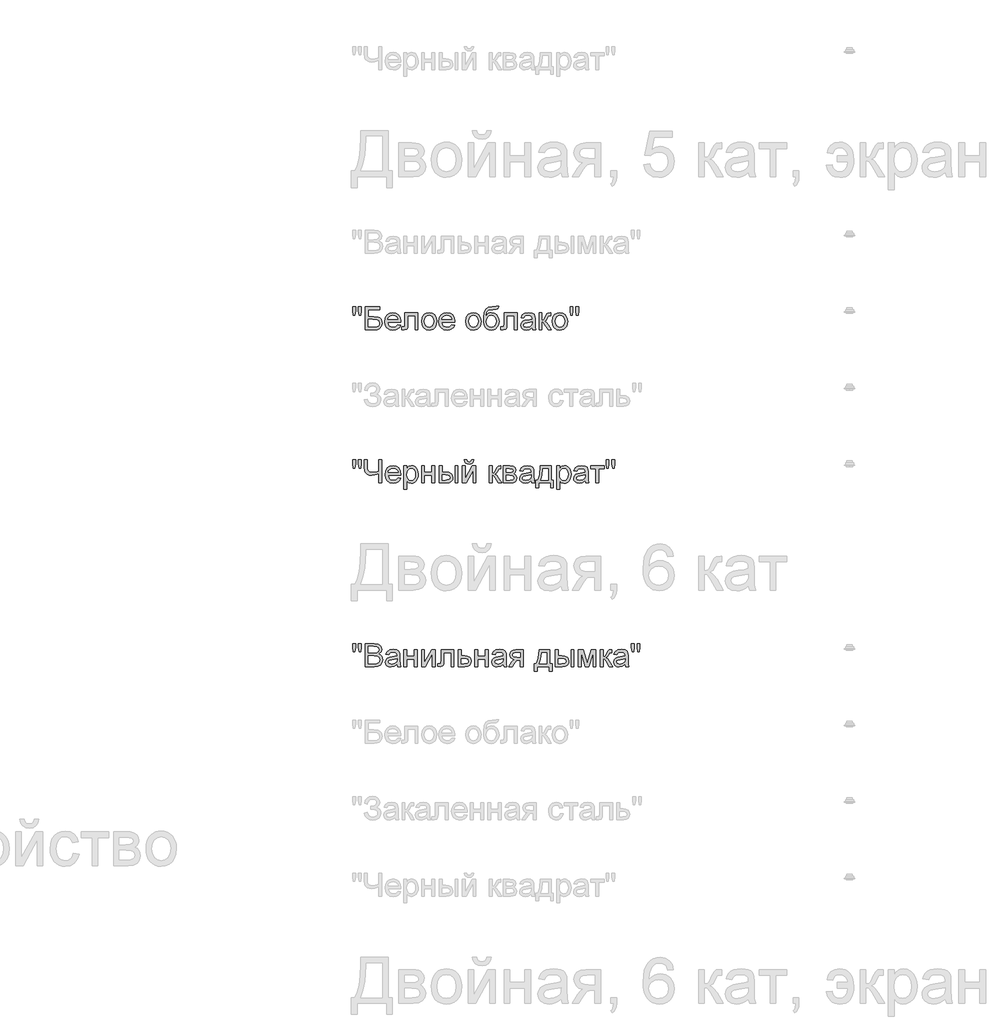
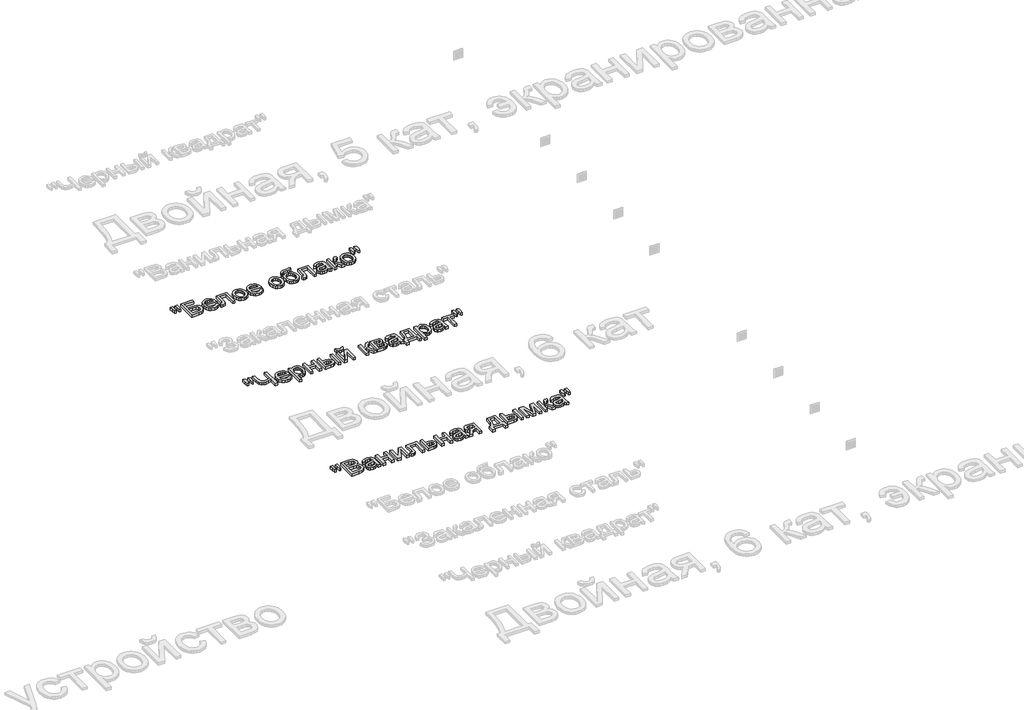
# One storey, part 156 of 168: 3 proxies.
"""IFC4 building model written with IfcOpenShell, lengths in millimetres."""

from ifc_helpers import new_model, si_unit, origin, origin_with_axes, place, context, project, spatial, polyline, outline, extrude, element, save

model = new_model("IFC4")

# Units and contexts
model_context = context("Model", 3, world=origin())
ifc_project = project(units=[si_unit("LENGTHUNIT", "METRE", prefix="MILLI")], contexts=[model_context])

# Site, building, storey
site = spatial("IfcSite", under=ifc_project)
building = spatial("IfcBuilding", under=site)
storey = spatial("IfcBuildingStorey", under=building, Name="Этаж 01", Elevation=0.0)

# Proxies
placement = place(None, origin())
element("IfcBuildingElementProxy", 1, Name="150", ObjectType="150", at=placement, inside=storey, context=model_context, shape_type="SweptSolid", body=[
    extrude(outline(polyline([(77280.1485789, -12351.873446), (77275.550054, -12322.7739802), (77275.550054, -12297.7212163), (77294.3856121, -12297.7212163), (77294.3856121, -12322.7739802), (77290.2653338, -12351.873446), (77280.1485789, -12351.873446)])), origin_with_axes(), (0.0, 0.0, 1.0), 20.0),
    extrude(outline(polyline([(77317.7093306, -12351.873446), (77313.2211703, -12322.7739802), (77313.2211703, -12297.7212163), (77332.0567284, -12297.7212163), (77332.0567284, -12322.7739802), (77327.6421445, -12351.873446), (77317.7093306, -12351.873446)])), origin_with_axes(), (0.0, 0.0, 1.0), 20.0),
    extrude(outline(polyline([(77357.9556209, -12297.7212163), (77452.1334117, -12297.7212163), (77452.1334117, -12316.5567745), (77376.791179, -12316.5567745), (77376.791179, -12361.2912251), (77412.0710624, -12361.2912251), (77443.157091, -12365.1171979), (77453.5589544, -12370.6446248), (77461.6615553, -12379.5749603), (77466.8762826, -12391.0712726), (77468.614525, -12404.2966303), (77463.6665122, -12425.7625448), (77448.8960501, -12442.0781113), (77435.6247071, -12446.823789), (77415.4555767, -12448.4056816), (77357.9556209, -12448.4056816), (77357.9556209, -12297.7212163)]), holes=[polyline([(77376.791179, -12429.5701234), (77417.1478339, -12429.5701234), (77431.4124583, -12428.015822), (77441.6119866, -12423.3529177), (77447.7372218, -12415.5814105), (77449.7789669, -12404.7013005), (77445.1068655, -12389.9492325), (77432.102237, -12382.0765578), (77403.7201411, -12380.1267833), (77376.791179, -12380.1267833), (77376.791179, -12429.5701234)])]), origin_with_axes(), (0.0, 0.0, 1.0), 20.0),
    extrude(outline(polyline([(77569.6349209, -12415.4434548), (77588.1025971, -12417.7978996), (77581.4485315, -12431.713036), (77570.8305374, -12442.1148995), (77556.4877381, -12448.5988196), (77538.6592569, -12450.7601263), (77516.5587461, -12447.0307226), (77499.5534008, -12435.8425114), (77488.710079, -12417.9220597), (77485.0956384, -12393.9959345), (77488.7468672, -12369.2650674), (77499.7005536, -12350.7698), (77516.4759726, -12339.2366995), (77537.5923991, -12335.3923327), (77558.0512366, -12339.2275025), (77574.3989927, -12350.7330118), (77585.1181544, -12369.191491), (77588.6912083, -12393.8855699), (77588.5808437, -12398.9623414), (77503.9311966, -12398.9623414), (77507.1915508, -12413.0614189), (77514.7653213, -12423.4264941), (77525.6960151, -12429.8000497), (77539.0271389, -12431.9245682), (77557.4948151, -12427.9882308), (77569.6349209, -12415.4434548)]), holes=[polyline([(77503.9311966, -12380.1267833), (77569.8556501, -12380.1267833), (77567.3080673, -12370.1755753), (77562.3140692, -12363.0570587), (77551.3327917, -12356.4351828), (77537.5188227, -12354.2278908), (77524.8222954, -12355.9891259), (77514.3238629, -12361.272831), (77507.0260039, -12369.5087892), (77503.9311966, -12380.1267833)])]), origin_with_axes(), (0.0, 0.0, 1.0), 20.0),
    extrude(outline(polyline([(77616.9445455, -12337.7467774), (77701.7045572, -12337.7467774), (77701.7045572, -12448.295317), (77682.868999, -12448.295317), (77682.868999, -12356.5823356), (77635.7801036, -12356.5823356), (77635.7801036, -12409.3734019), (77634.5109108, -12433.72719), (77627.539547, -12444.0094917), (77611.0584336, -12448.4056816), (77595.7545426, -12447.4491884), (77595.7545426, -12429.5701234), (77604.1790403, -12429.5701234), (77612.6955084, -12428.4112951), (77616.0984169, -12424.7324752), (77616.9445455, -12408.3065441), (77616.9445455, -12337.7467774)])), origin_with_axes(), (0.0, 0.0, 1.0), 20.0),
    extrude(outline(polyline([(77725.2490049, -12393.0762295), (77729.323298, -12366.3955878), (77741.5461773, -12347.6428031), (77756.6477332, -12338.4549503), (77774.7291332, -12335.3923327), (77794.516586, -12339.1217364), (77810.3217163, -12350.3099476), (77820.6821929, -12368.0740494), (77824.1356852, -12391.5311251), (77822.6089749, -12410.5598213), (77818.0288441, -12425.0451749), (77810.5286499, -12435.8930952), (77800.2417496, -12444.0094917), (77788.0234688, -12449.0724677), (77774.7291332, -12450.7601263), (77754.7025571, -12447.0445182), (77738.915821, -12435.8976937), (77728.6657089, -12417.7611114), (77725.2490049, -12393.0762295)]), holes=[polyline([(77744.084563, -12393.0394413), (77746.2642638, -12410.0861732), (77752.8033663, -12422.2308776), (77762.6442097, -12429.5011455), (77774.7291332, -12431.9245682), (77786.7588745, -12429.48735), (77796.5813237, -12422.1756953), (77803.1204262, -12409.8700426), (77805.300127, -12392.4508301), (77803.1066306, -12375.9007388), (77796.5261414, -12363.9215814), (77786.6898966, -12356.6513134), (77774.7291332, -12354.2278908), (77762.6442097, -12356.6421164), (77752.8033663, -12363.8847932), (77746.2642638, -12376.0019064), (77744.084563, -12393.0394413)])]), origin_with_axes(), (0.0, 0.0, 1.0), 20.0),
    extrude(outline(polyline([(77922.8016363, -12415.4434548), (77941.2693124, -12417.7978996), (77934.6152469, -12431.713036), (77923.9972528, -12442.1148995), (77909.6544535, -12448.5988196), (77891.8259723, -12450.7601263), (77869.7254614, -12447.0307226), (77852.7201162, -12435.8425114), (77841.8767944, -12417.9220597), (77838.2623538, -12393.9959345), (77841.9135826, -12369.2650674), (77852.867269, -12350.7698), (77869.642688, -12339.2366995), (77890.7591145, -12335.3923327), (77911.217952, -12339.2275025), (77927.5657081, -12350.7330118), (77938.2848698, -12369.191491), (77941.8579236, -12393.8855699), (77941.747559, -12398.9623414), (77857.0979119, -12398.9623414), (77860.3582661, -12413.0614189), (77867.9320367, -12423.4264941), (77878.8627305, -12429.8000497), (77892.1938543, -12431.9245682), (77910.6615304, -12427.9882308), (77922.8016363, -12415.4434548)]), holes=[polyline([(77857.0979119, -12380.1267833), (77923.0223655, -12380.1267833), (77920.4747827, -12370.1755753), (77915.4807846, -12363.0570587), (77904.499507, -12356.4351828), (77890.6855381, -12354.2278908), (77877.9890107, -12355.9891259), (77867.4905783, -12361.272831), (77860.1927192, -12369.5087892), (77857.0979119, -12380.1267833)])]), origin_with_axes(), (0.0, 0.0, 1.0), 20.0),
    extrude(outline(polyline([(78014.8457115, -12393.0762295), (78018.9200046, -12366.3955878), (78031.1428839, -12347.6428031), (78046.2444398, -12338.4549503), (78064.3258398, -12335.3923327), (78084.1132926, -12339.1217364), (78099.9184229, -12350.3099476), (78110.2788995, -12368.0740494), (78113.7323918, -12391.5311251), (78112.2056815, -12410.5598213), (78107.6255507, -12425.0451749), (78100.1253565, -12435.8930952), (78089.8384562, -12444.0094917), (78077.6201754, -12449.0724677), (78064.3258398, -12450.7601263), (78044.2992637, -12447.0445182), (78028.5125276, -12435.8976937), (78018.2624155, -12417.7611114), (78014.8457115, -12393.0762295)]), holes=[polyline([(78033.6812696, -12393.0394413), (78035.8609704, -12410.0861732), (78042.4000729, -12422.2308776), (78052.2409163, -12429.5011455), (78064.3258398, -12431.9245682), (78076.3555811, -12429.48735), (78086.1780303, -12422.1756953), (78092.7171328, -12409.8700426), (78094.8968336, -12392.4508301), (78092.7033372, -12375.9007388), (78086.122848, -12363.9215814), (78076.2866032, -12356.6513134), (78064.3258398, -12354.2278908), (78052.2409163, -12356.6421164), (78042.4000729, -12363.8847932), (78035.8609704, -12376.0019064), (78033.6812696, -12393.0394413)])]), origin_with_axes(), (0.0, 0.0, 1.0), 20.0),
    extrude(outline(polyline([(78212.6190721, -12295.3667716), (78229.1001855, -12295.3667716), (78224.2441431, -12310.0636573), (78214.6424231, -12315.3795521), (78191.576222, -12316.5567745), (78160.5085875, -12320.897782), (78153.3808738, -12326.5447707), (78148.5892108, -12334.8037215), (78144.560903, -12359.4150269), (78160.8764695, -12341.3888092), (78170.7954878, -12336.8914518), (78181.9009255, -12335.3923327), (78201.4998388, -12339.2045098), (78217.401538, -12350.6410414), (78227.9413572, -12368.5798871), (78231.4546302, -12391.8990071), (78229.7117893, -12409.8792396), (78224.4832664, -12424.3094109), (78207.9469707, -12443.8623389), (78196.6529935, -12449.0356795), (78181.9009255, -12450.7601263), (78164.9001788, -12448.5390388), (78152.1576662, -12441.8757762), (78142.7812738, -12431.7498242), (78135.8788879, -12419.1406689), (78131.6298508, -12400.1533594), (78130.2135052, -12370.8929452), (78133.786559, -12334.7531377), (78144.5057207, -12312.7124076), (78162.6377045, -12301.4690142), (78188.449225, -12297.7212163), (78209.4184987, -12297.2981521), (78212.6190721, -12295.3667716)]), holes=[polyline([(78212.6190721, -12391.3103959), (78210.577327, -12376.48935), (78204.4520918, -12364.6205572), (78194.6112484, -12356.8260574), (78181.4226789, -12354.2278908), (78167.6730893, -12356.9732102), (78157.473561, -12365.2091684), (78151.1551877, -12378.0344544), (78149.0490633, -12394.5477575), (78151.3759169, -12410.5552228), (78158.3564778, -12422.304454), (78168.7491442, -12429.5195396), (78181.3123143, -12431.9245682), (78193.9398638, -12429.1424606), (78203.937057, -12420.7961378), (78210.4485683, -12407.8604872), (78212.6190721, -12391.3103959)])]), origin_with_axes(), (0.0, 0.0, 1.0), 20.0),
    extrude(outline(polyline([(78264.416857, -12337.7467774), (78349.1768687, -12337.7467774), (78349.1768687, -12448.295317), (78330.3413105, -12448.295317), (78330.3413105, -12356.5823356), (78283.2524152, -12356.5823356), (78283.2524152, -12409.3734019), (78281.9832223, -12433.72719), (78275.0118585, -12444.0094917), (78258.5307451, -12448.4056816), (78243.2268541, -12447.4491884), (78243.2268541, -12429.5701234), (78251.6513518, -12429.5701234), (78260.16782, -12428.4112951), (78263.5707284, -12424.7324752), (78264.416857, -12408.3065441), (78264.416857, -12337.7467774)])), origin_with_axes(), (0.0, 0.0, 1.0), 20.0),
    extrude(outline(polyline([(78448.063549, -12434.279013), (78429.7982079, -12447.0445182), (78409.6198805, -12450.7601263), (78393.8791296, -12448.5252432), (78382.2678542, -12441.8205939), (78375.1079508, -12431.6394596), (78372.7213164, -12418.975122), (78376.3265599, -12404.0759012), (78385.7995213, -12393.2601705), (78398.9880908, -12387.079753), (78415.2852632, -12384.2470616), (78447.9531844, -12377.7723385), (78448.063549, -12373.5784838), (78446.766765, -12365.1723802), (78442.8764129, -12359.6725443), (78434.1760037, -12355.5890542), (78422.0542919, -12354.2278908), (78402.9980046, -12357.8515285), (78393.9113193, -12370.7090042), (78375.0757612, -12368.3545594), (78383.2243473, -12349.9604597), (78399.6318843, -12339.1815172), (78424.4823131, -12335.3923327), (78447.3093909, -12338.7400588), (78460.2036548, -12347.1461624), (78465.9794022, -12359.9300617), (78466.8991071, -12376.4111751), (78466.8991071, -12399.8452582), (78467.8556003, -12432.5683617), (78471.6079967, -12448.4056816), (78452.7724385, -12448.4056816), (78448.063549, -12434.279013)]), holes=[polyline([(78448.063549, -12396.6078966), (78417.6764962, -12402.383644), (78401.4712943, -12405.4370645), (78394.1320485, -12410.4034715), (78391.5568745, -12417.6507468), (78397.167075, -12427.841078), (78413.6297942, -12431.9245682), (78432.6860816, -12427.4180137), (78444.9733402, -12416.5103126), (78447.9531844, -12401.9421856), (78448.063549, -12396.6078966)])]), origin_with_axes(), (0.0, 0.0, 1.0), 20.0),
    extrude(outline(polyline([(78492.7979996, -12337.7467774), (78511.6335578, -12337.7467774), (78511.6335578, -12384.8356728), (78524.2519102, -12381.4511584), (78534.5893943, -12361.7326835), (78543.1794388, -12344.7181412), (78550.7578079, -12339.1815172), (78564.5349887, -12337.7467774), (78568.1402322, -12337.7467774), (78568.1402322, -12356.6927002), (78563.0634607, -12356.5823356), (78553.8664108, -12358.5688983), (78547.3916877, -12370.9665216), (78539.7949245, -12384.3758203), (78529.1447407, -12390.9425139), (78541.0273292, -12398.2725627), (78552.6891884, -12413.7144094), (78572.8491218, -12448.4056816), (78551.4383896, -12448.4056816), (78531.6831265, -12414.4501734), (78521.7503126, -12400.0843815), (78511.6335578, -12396.6078966), (78511.6335578, -12448.4056816), (78492.7979996, -12448.4056816), (78492.7979996, -12337.7467774)])), origin_with_axes(), (0.0, 0.0, 1.0), 20.0),
    extrude(outline(polyline([(78579.9124561, -12393.0762295), (78583.9867492, -12366.3955878), (78596.2096285, -12347.6428031), (78611.3111844, -12338.4549503), (78629.3925844, -12335.3923327), (78649.1800372, -12339.1217364), (78664.9851674, -12350.3099476), (78675.3456441, -12368.0740494), (78678.7991364, -12391.5311251), (78677.2724261, -12410.5598213), (78672.6922952, -12425.0451749), (78665.1921011, -12435.8930952), (78654.9052008, -12444.0094917), (78642.68692, -12449.0724677), (78629.3925844, -12450.7601263), (78609.3660083, -12447.0445182), (78593.5792722, -12435.8976937), (78583.3291601, -12417.7611114), (78579.9124561, -12393.0762295)]), holes=[polyline([(78598.7480142, -12393.0394413), (78600.927715, -12410.0861732), (78607.4668175, -12422.2308776), (78617.3076609, -12429.5011455), (78629.3925844, -12431.9245682), (78641.4223257, -12429.48735), (78651.2447749, -12422.1756953), (78657.7838774, -12409.8700426), (78659.9635782, -12392.4508301), (78657.7700818, -12375.9007388), (78651.1895926, -12363.9215814), (78641.3533478, -12356.6513134), (78629.3925844, -12354.2278908), (78617.3076609, -12356.6421164), (78607.4668175, -12363.8847932), (78600.927715, -12376.0019064), (78598.7480142, -12393.0394413)])]), origin_with_axes(), (0.0, 0.0, 1.0), 20.0),
    extrude(outline(polyline([(78699.8787747, -12351.873446), (78695.2802498, -12322.7739802), (78695.2802498, -12297.7212163), (78714.1158079, -12297.7212163), (78714.1158079, -12322.7739802), (78709.9955296, -12351.873446), (78699.8787747, -12351.873446)])), origin_with_axes(), (0.0, 0.0, 1.0), 20.0),
    extrude(outline(polyline([(78737.4395264, -12351.873446), (78732.9513661, -12322.7739802), (78732.9513661, -12297.7212163), (78751.7869242, -12297.7212163), (78751.7869242, -12322.7739802), (78747.3723403, -12351.873446), (78737.4395264, -12351.873446)])), origin_with_axes(), (0.0, 0.0, 1.0), 20.0),
])
element("IfcBuildingElementProxy", 2, Name="150", ObjectType="150", at=placement, inside=storey, context=model_context, shape_type="SweptSolid", body=[
    extrude(outline(polyline([(77280.1485789, -13351.873446), (77275.550054, -13322.7739802), (77275.550054, -13297.7212163), (77294.3856121, -13297.7212163), (77294.3856121, -13322.7739802), (77290.2653338, -13351.873446), (77280.1485789, -13351.873446)])), origin_with_axes(), (0.0, 0.0, 1.0), 20.0),
    extrude(outline(polyline([(77317.7093306, -13351.873446), (77313.2211703, -13322.7739802), (77313.2211703, -13297.7212163), (77332.0567284, -13297.7212163), (77332.0567284, -13322.7739802), (77327.6421445, -13351.873446), (77317.7093306, -13351.873446)])), origin_with_axes(), (0.0, 0.0, 1.0), 20.0),
    extrude(outline(polyline([(77463.9056355, -13448.4056816), (77445.0700773, -13448.4056816), (77445.0700773, -13388.0730344), (77420.0908899, -13396.2400147), (77398.4226404, -13398.9623414), (77383.7395502, -13397.0999388), (77370.886673, -13391.512731), (77360.926268, -13383.0606422), (77354.9205944, -13372.6035965), (77350.8922866, -13342.6028198), (77350.8922866, -13297.7212163), (77369.7278447, -13297.7212163), (77369.7278447, -13340.064434), (77371.990319, -13360.4313009), (77378.7777418, -13372.3828673), (77388.7381468, -13378.1908043), (77400.5195677, -13380.1267833), (77422.2521966, -13377.7907326), (77445.0700773, -13370.7825806), (77445.0700773, -13297.7212163), (77463.9056355, -13297.7212163), (77463.9056355, -13448.4056816)])), origin_with_axes(), (0.0, 0.0, 1.0), 20.0),
    extrude(outline(polyline([(77571.9893657, -13415.4434548), (77590.4570418, -13417.7978996), (77583.8029763, -13431.713036), (77573.1849822, -13442.1148995), (77558.8421829, -13448.5988196), (77541.0137017, -13450.7601263), (77518.9131908, -13447.0307226), (77501.9078456, -13435.8425114), (77491.0645238, -13417.9220597), (77487.4500832, -13393.9959345), (77491.101312, -13369.2650674), (77502.0549984, -13350.7698), (77518.8304174, -13339.2366995), (77539.9468439, -13335.3923327), (77560.4056814, -13339.2275025), (77576.7534375, -13350.7330118), (77587.4725992, -13369.191491), (77591.045653, -13393.8855699), (77590.9352884, -13398.9623414), (77506.2856413, -13398.9623414), (77509.5459955, -13413.0614189), (77517.1197661, -13423.4264941), (77528.0504599, -13429.8000497), (77541.3815837, -13431.9245682), (77559.8492598, -13427.9882308), (77571.9893657, -13415.4434548)]), holes=[polyline([(77506.2856413, -13380.1267833), (77572.2100949, -13380.1267833), (77569.6625121, -13370.1755753), (77564.668514, -13363.0570587), (77553.6872364, -13356.4351828), (77539.8732675, -13354.2278908), (77527.1767401, -13355.9891259), (77516.6783077, -13361.272831), (77509.3804486, -13369.5087892), (77506.2856413, -13380.1267833)])]), origin_with_axes(), (0.0, 0.0, 1.0), 20.0),
    extrude(outline(polyline([(77609.8812112, -13490.7856874), (77609.8812112, -13337.7467774), (77628.7167693, -13337.7467774), (77628.7167693, -13356.2144536), (77641.739792, -13340.5978629), (77659.3245513, -13335.3923327), (77672.0624654, -13337.2133485), (77683.2000928, -13342.6763962), (77692.268384, -13351.4503817), (77698.7982894, -13363.2042115), (77704.0590019, -13392.2301009), (77702.5736784, -13408.3387338), (77698.1177077, -13422.7459124), (77690.8336442, -13434.7204713), (77680.8640422, -13443.5312451), (77669.2527667, -13448.952906), (77657.043683, -13450.7601263), (77640.6545401, -13445.9224781), (77628.7167693, -13433.6904018), (77628.7167693, -13490.7856874), (77609.8812112, -13490.7856874)]), holes=[polyline([(77628.7167693, -13393.9591463), (77630.7539159, -13410.8449299), (77636.8653555, -13422.6539419), (77645.8830629, -13429.6069116), (77656.6390128, -13431.9245682), (77667.5697066, -13429.5241382), (77676.8173402, -13422.3228481), (77683.1219179, -13410.0815747), (77685.2234438, -13392.5611947), (77683.1725017, -13375.7673816), (77677.0196753, -13363.7928227), (77668.0157635, -13356.6191238), (77657.411565, -13354.2278908), (77646.7659797, -13356.7708751), (77637.4171785, -13364.399828), (77630.8918716, -13376.8756261), (77628.7167693, -13393.9591463)])]), origin_with_axes(), (0.0, 0.0, 1.0), 20.0),
    extrude(outline(polyline([(77725.2490049, -13337.7467774), (77744.084563, -13337.7467774), (77744.084563, -13380.1267833), (77793.5279032, -13380.1267833), (77793.5279032, -13337.7467774), (77812.3634613, -13337.7467774), (77812.3634613, -13448.4056816), (77793.5279032, -13448.4056816), (77793.5279032, -13398.9623414), (77744.084563, -13398.9623414), (77744.084563, -13448.4056816), (77725.2490049, -13448.4056816), (77725.2490049, -13337.7467774)])), origin_with_axes(), (0.0, 0.0, 1.0), 20.0),
    extrude(outline(polyline([(77944.2123684, -13337.7467774), (77963.0479266, -13337.7467774), (77963.0479266, -13448.4056816), (77944.2123684, -13448.4056816), (77944.2123684, -13337.7467774)])), origin_with_axes(), (0.0, 0.0, 1.0), 20.0),
    extrude(outline(polyline([(77840.6167986, -13337.7467774), (77859.4523567, -13337.7467774), (77859.4523567, -13377.7723385), (77882.739287, -13377.7723385), (77902.8670307, -13380.1313818), (77917.780047, -13387.2085117), (77927.0092866, -13398.433511), (77930.0856998, -13413.2361628), (77927.5059273, -13426.7144394), (77919.7666098, -13438.0865916), (77906.3619096, -13445.8259091), (77886.785989, -13448.4056816), (77840.6167986, -13448.4056816), (77840.6167986, -13337.7467774)]), holes=[polyline([(77859.4523567, -13429.5701234), (77878.8029497, -13429.5701234), (77903.7821371, -13425.615392), (77909.3831405, -13420.552416), (77911.2501416, -13413.272951), (77905.7135176, -13401.6846682), (77896.8337659, -13397.8770895), (77881.267759, -13396.6078966), (77859.4523567, -13396.6078966), (77859.4523567, -13429.5701234)])]), origin_with_axes(), (0.0, 0.0, 1.0), 20.0),
    extrude(outline(polyline([(77991.3012638, -13337.7467774), (78010.1368219, -13337.7467774), (78010.1368219, -13422.1389071), (78056.4163769, -13337.7467774), (78080.770165, -13337.7467774), (78080.770165, -13448.4056816), (78061.9346069, -13448.4056816), (78061.9346069, -13364.5285867), (78015.9493575, -13448.4056816), (77991.3012638, -13448.4056816), (77991.3012638, -13337.7467774)])), origin_with_axes(), (0.0, 0.0, 1.0), 20.0),
    extrude(outline(polyline([(78052.5168278, -13297.7212163), (78066.6434964, -13297.7212163), (78063.6038714, -13309.7831473), (78057.5016288, -13318.672096), (78048.6126801, -13324.1489392), (78037.2129368, -13325.9745536), (78024.8429047, -13324.1627347), (78015.2503817, -13318.7272783), (78008.6928851, -13309.8521251), (78005.4279324, -13297.7212163), (78019.554601, -13297.7212163), (78024.8521017, -13308.3346119), (78035.5206796, -13311.847885), (78047.219327, -13308.4449765), (78052.5168278, -13297.7212163)])), origin_with_axes(), (0.0, 0.0, 1.0), 20.0),
    extrude(outline(polyline([(78167.8846215, -13337.7467774), (78186.7201796, -13337.7467774), (78186.7201796, -13384.8356728), (78199.3385321, -13381.4511584), (78209.6760161, -13361.7326835), (78218.2660607, -13344.7181412), (78225.8444298, -13339.1815172), (78239.6216105, -13337.7467774), (78243.2268541, -13337.7467774), (78243.2268541, -13356.6927002), (78238.1500825, -13356.5823356), (78228.9530327, -13358.5688983), (78222.4783096, -13370.9665216), (78214.8815464, -13384.3758203), (78204.2313626, -13390.9425139), (78216.113951, -13398.2725627), (78227.7758103, -13413.7144094), (78247.9357436, -13448.4056816), (78226.5250115, -13448.4056816), (78206.7697484, -13414.4501734), (78196.8369345, -13400.0843815), (78186.7201796, -13396.6078966), (78186.7201796, -13448.4056816), (78167.8846215, -13448.4056816), (78167.8846215, -13337.7467774)])), origin_with_axes(), (0.0, 0.0, 1.0), 20.0),
    extrude(outline(polyline([(78259.7079675, -13337.7467774), (78301.2050565, -13337.7467774), (78323.9585579, -13340.2667691), (78336.7608514, -13349.5006072), (78342.1135344, -13365.5954445), (78338.8761728, -13378.6736494), (78329.1273, -13387.999458), (78341.7824406, -13398.2081833), (78346.8224239, -13415.9584896), (78343.6310476, -13430.3150845), (78336.0434815, -13440.4226423), (78324.0321343, -13446.4099217), (78307.569415, -13448.4056816), (78259.7079675, -13448.4056816), (78259.7079675, -13337.7467774)]), holes=[polyline([(78278.5435256, -13380.1267833), (78297.1583546, -13380.1267833), (78312.5174279, -13379.1702901), (78319.9854324, -13375.3443173), (78323.2779762, -13368.4281358), (78321.8340394, -13362.8087383), (78317.5022289, -13359.1942977), (78297.7469658, -13356.5823356), (78278.5435256, -13356.5823356), (78278.5435256, -13380.1267833)]), polyline([(78278.5435256, -13429.5701234), (78301.6465149, -13429.5701234), (78322.137542, -13426.167215), (78326.377382, -13421.5273033), (78327.9868658, -13414.4133852), (78324.7678983, -13405.345094), (78316.3801888, -13400.0659874), (78299.8071049, -13398.9623414), (78278.5435256, -13398.9623414), (78278.5435256, -13429.5701234)])]), origin_with_axes(), (0.0, 0.0, 1.0), 20.0),
    extrude(outline(polyline([(78441.0002147, -13434.279013), (78422.7348736, -13447.0445182), (78402.5565462, -13450.7601263), (78386.8157953, -13448.5252432), (78375.2045198, -13441.8205939), (78368.0446165, -13431.6394596), (78365.6579821, -13418.975122), (78369.2632256, -13404.0759012), (78378.736187, -13393.2601705), (78391.9247565, -13387.079753), (78408.2219289, -13384.2470616), (78440.8898501, -13377.7723385), (78441.0002147, -13373.5784838), (78439.7034307, -13365.1723802), (78435.8130786, -13359.6725443), (78427.1126694, -13355.5890542), (78414.9909576, -13354.2278908), (78395.9346703, -13357.8515285), (78386.847985, -13370.7090042), (78368.0124268, -13368.3545594), (78376.161013, -13349.9604597), (78392.56855, -13339.1815172), (78417.4189788, -13335.3923327), (78440.2460566, -13338.7400588), (78453.1403205, -13347.1461624), (78458.9160679, -13359.9300617), (78459.8357728, -13376.4111751), (78459.8357728, -13399.8452582), (78460.792266, -13432.5683617), (78464.5446624, -13448.4056816), (78445.7091042, -13448.4056816), (78441.0002147, -13434.279013)]), holes=[polyline([(78441.0002147, -13396.6078966), (78410.6131619, -13402.383644), (78394.40796, -13405.4370645), (78387.0687142, -13410.4034715), (78384.4935402, -13417.6507468), (78390.1037407, -13427.841078), (78406.5664599, -13431.9245682), (78425.6227473, -13427.4180137), (78437.9100059, -13416.5103126), (78440.8898501, -13401.9421856), (78441.0002147, -13396.6078966)])]), origin_with_axes(), (0.0, 0.0, 1.0), 20.0),
    extrude(outline(polyline([(78502.2157787, -13337.7467774), (78572.8491218, -13337.7467774), (78572.8491218, -13429.5701234), (78586.9757904, -13429.5701234), (78586.9757904, -13479.0134636), (78568.1402322, -13479.0134636), (78568.1402322, -13448.4056816), (78490.4435548, -13448.4056816), (78490.4435548, -13479.0134636), (78471.6079967, -13479.0134636), (78471.6079967, -13429.5701234), (78483.3802205, -13429.5701234), (78491.9380754, -13414.105284), (78497.9299534, -13393.6464466), (78502.2157787, -13337.7467774)]), holes=[polyline([(78518.6968921, -13356.5823356), (78514.2823081, -13399.4957703), (78504.5702235, -13429.5701234), (78554.0135636, -13429.5701234), (78554.0135636, -13356.5823356), (78518.6968921, -13356.5823356)])]), origin_with_axes(), (0.0, 0.0, 1.0), 20.0),
    extrude(outline(polyline([(78608.1657933, -13490.7856874), (78608.1657933, -13337.7467774), (78627.0013514, -13337.7467774), (78627.0013514, -13356.2144536), (78640.0243741, -13340.5978629), (78657.6091334, -13335.3923327), (78670.3470475, -13337.2133485), (78681.4846749, -13342.6763962), (78690.5529661, -13351.4503817), (78697.0828715, -13363.2042115), (78702.3435841, -13392.2301009), (78700.8582605, -13408.3387338), (78696.4022898, -13422.7459124), (78689.1182263, -13434.7204713), (78679.1486243, -13443.5312451), (78667.5373488, -13448.952906), (78655.3282651, -13450.7601263), (78638.9391222, -13445.9224781), (78627.0013514, -13433.6904018), (78627.0013514, -13490.7856874), (78608.1657933, -13490.7856874)]), holes=[polyline([(78627.0013514, -13393.9591463), (78629.038498, -13410.8449299), (78635.1499376, -13422.6539419), (78644.167645, -13429.6069116), (78654.9235949, -13431.9245682), (78665.8542887, -13429.5241382), (78675.1019223, -13422.3228481), (78681.4065, -13410.0815747), (78683.5080259, -13392.5611947), (78681.4570838, -13375.7673816), (78675.3042574, -13363.7928227), (78666.3003456, -13356.6191238), (78655.6961471, -13354.2278908), (78645.0505618, -13356.7708751), (78635.7017606, -13364.399828), (78629.1764537, -13376.8756261), (78627.0013514, -13393.9591463)])]), origin_with_axes(), (0.0, 0.0, 1.0), 20.0),
    extrude(outline(polyline([(78794.1669301, -13434.279013), (78775.901589, -13447.0445182), (78755.7232616, -13450.7601263), (78739.9825107, -13448.5252432), (78728.3712352, -13441.8205939), (78721.2113319, -13431.6394596), (78718.8246974, -13418.975122), (78722.429941, -13404.0759012), (78731.9029024, -13393.2601705), (78745.0914719, -13387.079753), (78761.3886443, -13384.2470616), (78794.0565655, -13377.7723385), (78794.1669301, -13373.5784838), (78792.870146, -13365.1723802), (78788.9797939, -13359.6725443), (78780.2793847, -13355.5890542), (78768.157673, -13354.2278908), (78749.1013856, -13357.8515285), (78740.0147004, -13370.7090042), (78721.1791422, -13368.3545594), (78729.3277284, -13349.9604597), (78745.7352654, -13339.1815172), (78770.5856942, -13335.3923327), (78793.412772, -13338.7400588), (78806.3070359, -13347.1461624), (78812.0827832, -13359.9300617), (78813.0024882, -13376.4111751), (78813.0024882, -13399.8452582), (78813.9589814, -13432.5683617), (78817.7113777, -13448.4056816), (78798.8758196, -13448.4056816), (78794.1669301, -13434.279013)]), holes=[polyline([(78794.1669301, -13396.6078966), (78763.7798773, -13402.383644), (78747.5746754, -13405.4370645), (78740.2354296, -13410.4034715), (78737.6602556, -13417.6507468), (78743.270456, -13427.841078), (78759.7331753, -13431.9245682), (78778.7894627, -13427.4180137), (78791.0767213, -13416.5103126), (78794.0565655, -13401.9421856), (78794.1669301, -13396.6078966)])]), origin_with_axes(), (0.0, 0.0, 1.0), 20.0),
    extrude(outline(polyline([(78829.4836016, -13337.7467774), (78918.9525028, -13337.7467774), (78918.9525028, -13356.5823356), (78883.6358313, -13356.5823356), (78883.6358313, -13448.4056816), (78864.8002731, -13448.4056816), (78864.8002731, -13356.5823356), (78829.4836016, -13356.5823356), (78829.4836016, -13337.7467774)])), origin_with_axes(), (0.0, 0.0, 1.0), 20.0),
    extrude(outline(polyline([(78935.3232516, -13351.873446), (78930.7247267, -13322.7739802), (78930.7247267, -13297.7212163), (78949.5602848, -13297.7212163), (78949.5602848, -13322.7739802), (78945.4400065, -13351.873446), (78935.3232516, -13351.873446)])), origin_with_axes(), (0.0, 0.0, 1.0), 20.0),
    extrude(outline(polyline([(78972.8840033, -13351.873446), (78968.395843, -13322.7739802), (78968.395843, -13297.7212163), (78987.2314011, -13297.7212163), (78987.2314011, -13322.7739802), (78982.8168172, -13351.873446), (78972.8840033, -13351.873446)])), origin_with_axes(), (0.0, 0.0, 1.0), 20.0),
])
element("IfcBuildingElementProxy", 3, Name="150", ObjectType="150", at=placement, inside=storey, context=model_context, shape_type="SweptSolid", body=[
    extrude(outline(polyline([(77280.1485789, -14551.873446), (77275.550054, -14522.7739802), (77275.550054, -14497.7212163), (77294.3856121, -14497.7212163), (77294.3856121, -14522.7739802), (77290.2653338, -14551.873446), (77280.1485789, -14551.873446)])), origin_with_axes(), (0.0, 0.0, 1.0), 20.0),
    extrude(outline(polyline([(77317.7093306, -14551.873446), (77313.2211703, -14522.7739802), (77313.2211703, -14497.7212163), (77332.0567284, -14497.7212163), (77332.0567284, -14522.7739802), (77327.6421445, -14551.873446), (77317.7093306, -14551.873446)])), origin_with_axes(), (0.0, 0.0, 1.0), 20.0),
    extrude(outline(polyline([(77357.9556209, -14648.4056816), (77357.9556209, -14497.7212163), (77415.4555767, -14497.7212163), (77443.6169435, -14502.1541944), (77453.0807078, -14507.7781904), (77460.2452096, -14515.7842223), (77466.2600803, -14535.0612389), (77461.2017028, -14552.6643923), (77445.9162059, -14566.0001146), (77456.5893823, -14571.5735269), (77464.4758526, -14580.0532069), (77469.3456905, -14590.8781346), (77470.9689698, -14603.48729), (77466.5359918, -14623.7391938), (77455.5547142, -14638.160168), (77439.1655713, -14645.8121135), (77415.0141183, -14648.4056816), (77357.9556209, -14648.4056816)]), holes=[polyline([(77376.791179, -14558.9367803), (77411.1881456, -14558.9367803), (77431.2745025, -14557.3180996), (77443.3594261, -14550.3467358), (77447.4245221, -14538.0778712), (77443.6353376, -14525.7906126), (77432.7828187, -14518.5249432), (77408.5761834, -14516.5567745), (77376.791179, -14516.5567745), (77376.791179, -14558.9367803)]), polyline([(77376.791179, -14629.5701234), (77415.4187885, -14629.5701234), (77429.3983043, -14628.8343594), (77441.2257105, -14624.7324752), (77449.061597, -14616.3631598), (77452.1334117, -14603.671231), (77448.5281681, -14589.0295275), (77436.8479148, -14580.2923302), (77413.5793786, -14577.7723385), (77376.791179, -14577.7723385), (77376.791179, -14629.5701234)])]), origin_with_axes(), (0.0, 0.0, 1.0), 20.0),
    extrude(outline(polyline([(77565.1467606, -14634.279013), (77546.8814195, -14647.0445182), (77526.7030921, -14650.7601263), (77510.9623412, -14648.5252432), (77499.3510657, -14641.8205939), (77492.1911624, -14631.6394596), (77489.804528, -14618.975122), (77493.4097715, -14604.0759012), (77502.8827329, -14593.2601705), (77516.0713024, -14587.079753), (77532.3684748, -14584.2470616), (77565.036396, -14577.7723385), (77565.1467606, -14573.5784838), (77563.8499765, -14565.1723802), (77559.9596244, -14559.6725443), (77551.2592153, -14555.5890542), (77539.1375035, -14554.2278908), (77520.0812162, -14557.8515285), (77510.9945309, -14570.7090042), (77492.1589727, -14568.3545594), (77500.3075589, -14549.9604597), (77516.7150959, -14539.1815172), (77541.5655247, -14535.3923327), (77564.3926025, -14538.7400588), (77577.2868664, -14547.1461624), (77583.0626137, -14559.9300617), (77583.9823187, -14576.4111751), (77583.9823187, -14599.8452582), (77584.9388119, -14632.5683617), (77588.6912083, -14648.4056816), (77569.8556501, -14648.4056816), (77565.1467606, -14634.279013)]), holes=[polyline([(77565.1467606, -14596.6078966), (77534.7597078, -14602.383644), (77518.5545059, -14605.4370645), (77511.2152601, -14610.4034715), (77508.6400861, -14617.6507468), (77514.2502865, -14627.841078), (77530.7130058, -14631.9245682), (77549.7692932, -14627.4180137), (77562.0565518, -14616.5103126), (77565.036396, -14601.9421856), (77565.1467606, -14596.6078966)])]), origin_with_axes(), (0.0, 0.0, 1.0), 20.0),
    extrude(outline(polyline([(77609.8812112, -14537.7467774), (77628.7167693, -14537.7467774), (77628.7167693, -14580.1267833), (77678.1601095, -14580.1267833), (77678.1601095, -14537.7467774), (77696.9956676, -14537.7467774), (77696.9956676, -14648.4056816), (77678.1601095, -14648.4056816), (77678.1601095, -14598.9623414), (77628.7167693, -14598.9623414), (77628.7167693, -14648.4056816), (77609.8812112, -14648.4056816), (77609.8812112, -14537.7467774)])), origin_with_axes(), (0.0, 0.0, 1.0), 20.0),
    extrude(outline(polyline([(77725.2490049, -14537.7467774), (77744.084563, -14537.7467774), (77744.084563, -14622.1389071), (77790.364118, -14537.7467774), (77814.7179061, -14537.7467774), (77814.7179061, -14648.4056816), (77795.8823479, -14648.4056816), (77795.8823479, -14564.5285867), (77749.8970985, -14648.4056816), (77725.2490049, -14648.4056816), (77725.2490049, -14537.7467774)])), origin_with_axes(), (0.0, 0.0, 1.0), 20.0),
    extrude(outline(polyline([(77852.3890224, -14537.7467774), (77937.1490341, -14537.7467774), (77937.1490341, -14648.295317), (77918.3134759, -14648.295317), (77918.3134759, -14556.5823356), (77871.2245806, -14556.5823356), (77871.2245806, -14609.3734019), (77869.9553877, -14633.72719), (77862.9840239, -14644.0094917), (77846.5029105, -14648.4056816), (77831.1990195, -14647.4491884), (77831.1990195, -14629.5701234), (77839.6235172, -14629.5701234), (77848.1399854, -14628.4112951), (77851.5428938, -14624.7324752), (77852.3890224, -14608.3065441), (77852.3890224, -14537.7467774)])), origin_with_axes(), (0.0, 0.0, 1.0), 20.0),
    extrude(outline(polyline([(77965.4023713, -14537.7467774), (77984.2379295, -14537.7467774), (77984.2379295, -14577.7723385), (78005.9429672, -14577.7723385), (78024.7601312, -14580.1313818), (78038.6844648, -14587.2085117), (78047.2929034, -14598.433511), (78050.162383, -14613.2361628), (78047.7205663, -14626.7144394), (78040.395116, -14638.0865916), (78027.6985887, -14645.8259091), (78009.1435405, -14648.4056816), (77965.4023713, -14648.4056816), (77965.4023713, -14537.7467774)]), holes=[polyline([(77984.2379295, -14629.5701234), (78001.8226888, -14629.5701234), (78024.539402, -14625.615392), (78029.6299692, -14620.552416), (78031.3268249, -14613.272951), (78026.3052356, -14601.6846682), (78018.2348244, -14597.8770895), (78004.066769, -14596.6078966), (77984.2379295, -14596.6078966), (77984.2379295, -14629.5701234)])]), origin_with_axes(), (0.0, 0.0, 1.0), 20.0),
    extrude(outline(polyline([(78073.7068307, -14537.7467774), (78092.5423889, -14537.7467774), (78092.5423889, -14580.1267833), (78141.985729, -14580.1267833), (78141.985729, -14537.7467774), (78160.8212872, -14537.7467774), (78160.8212872, -14648.4056816), (78141.985729, -14648.4056816), (78141.985729, -14598.9623414), (78092.5423889, -14598.9623414), (78092.5423889, -14648.4056816), (78073.7068307, -14648.4056816), (78073.7068307, -14537.7467774)])), origin_with_axes(), (0.0, 0.0, 1.0), 20.0),
    extrude(outline(polyline([(78259.7079675, -14634.279013), (78241.4426264, -14647.0445182), (78221.264299, -14650.7601263), (78205.5235481, -14648.5252432), (78193.9122726, -14641.8205939), (78186.7523693, -14631.6394596), (78184.3657349, -14618.975122), (78187.9709784, -14604.0759012), (78197.4439398, -14593.2601705), (78210.6325093, -14587.079753), (78226.9296817, -14584.2470616), (78259.5976029, -14577.7723385), (78259.7079675, -14573.5784838), (78258.4111834, -14565.1723802), (78254.5208313, -14559.6725443), (78245.8204221, -14555.5890542), (78233.6987104, -14554.2278908), (78214.6424231, -14557.8515285), (78205.5557378, -14570.7090042), (78186.7201796, -14568.3545594), (78194.8687658, -14549.9604597), (78211.2763028, -14539.1815172), (78236.1267316, -14535.3923327), (78258.9538094, -14538.7400588), (78271.8480733, -14547.1461624), (78277.6238206, -14559.9300617), (78278.5435256, -14576.4111751), (78278.5435256, -14599.8452582), (78279.5000188, -14632.5683617), (78283.2524152, -14648.4056816), (78264.416857, -14648.4056816), (78259.7079675, -14634.279013)]), holes=[polyline([(78259.7079675, -14596.6078966), (78229.3209147, -14602.383644), (78213.1157128, -14605.4370645), (78205.776467, -14610.4034715), (78203.201293, -14617.6507468), (78208.8114934, -14627.841078), (78225.2742127, -14631.9245682), (78244.3305001, -14627.4180137), (78256.6177587, -14616.5103126), (78259.5976029, -14601.9421856), (78259.7079675, -14596.6078966)])]), origin_with_axes(), (0.0, 0.0, 1.0), 20.0),
    extrude(outline(polyline([(78389.2024298, -14537.7467774), (78389.2024298, -14648.4056816), (78370.3668716, -14648.4056816), (78370.3668716, -14606.0256757), (78360.1029639, -14606.0256757), (78346.1234481, -14608.4169087), (78332.9900609, -14624.4933519), (78317.9804755, -14648.4056816), (78296.2018614, -14648.4056816), (78315.1109959, -14618.1657816), (78323.4619172, -14607.3132627), (78331.1506509, -14602.4940086), (78318.2747811, -14598.5484742), (78309.224884, -14591.0528785), (78303.872201, -14581.0832765), (78302.0879733, -14569.7157228), (78304.5251915, -14556.8214589), (78311.8368462, -14546.6127335), (78323.7654199, -14539.9632664), (78340.0533952, -14537.7467774), (78389.2024298, -14537.7467774)]), holes=[polyline([(78370.3668716, -14556.5823356), (78345.5348369, -14556.5823356), (78332.7095509, -14557.672186), (78325.4300859, -14560.9417372), (78320.9235315, -14571.1504626), (78322.583599, -14578.32876), (78327.5638015, -14583.3089625), (78351.0898551, -14587.1901176), (78370.3668716, -14587.1901176), (78370.3668716, -14556.5823356)])]), origin_with_axes(), (0.0, 0.0, 1.0), 20.0),
    extrude(outline(polyline([(78492.7979996, -14537.7467774), (78563.4313427, -14537.7467774), (78563.4313427, -14629.5701234), (78577.5580113, -14629.5701234), (78577.5580113, -14679.0134636), (78558.7224531, -14679.0134636), (78558.7224531, -14648.4056816), (78481.0257758, -14648.4056816), (78481.0257758, -14679.0134636), (78462.1902176, -14679.0134636), (78462.1902176, -14629.5701234), (78473.9624415, -14629.5701234), (78482.5202964, -14614.105284), (78488.5121744, -14593.6464466), (78492.7979996, -14537.7467774)]), holes=[polyline([(78509.279113, -14556.5823356), (78504.864529, -14599.4957703), (78495.1524444, -14629.5701234), (78544.5957845, -14629.5701234), (78544.5957845, -14556.5823356), (78509.279113, -14556.5823356)])]), origin_with_axes(), (0.0, 0.0, 1.0), 20.0),
    extrude(outline(polyline([(78702.3435841, -14537.7467774), (78721.1791422, -14537.7467774), (78721.1791422, -14648.4056816), (78702.3435841, -14648.4056816), (78702.3435841, -14537.7467774)])), origin_with_axes(), (0.0, 0.0, 1.0), 20.0),
    extrude(outline(polyline([(78598.7480142, -14537.7467774), (78617.5835724, -14537.7467774), (78617.5835724, -14577.7723385), (78640.8705027, -14577.7723385), (78660.9982463, -14580.1313818), (78675.9112627, -14587.2085117), (78685.1405023, -14598.433511), (78688.2169154, -14613.2361628), (78685.637143, -14626.7144394), (78677.8978255, -14638.0865916), (78664.4931253, -14645.8259091), (78644.9172046, -14648.4056816), (78598.7480142, -14648.4056816), (78598.7480142, -14537.7467774)]), holes=[polyline([(78617.5835724, -14629.5701234), (78636.9341653, -14629.5701234), (78661.9133528, -14625.615392), (78667.5143562, -14620.552416), (78669.3813573, -14613.272951), (78663.8447333, -14601.6846682), (78654.9649816, -14597.8770895), (78639.3989747, -14596.6078966), (78617.5835724, -14596.6078966), (78617.5835724, -14629.5701234)])]), origin_with_axes(), (0.0, 0.0, 1.0), 20.0),
    extrude(outline(polyline([(78749.4324794, -14537.7467774), (78781.8428832, -14537.7467774), (78806.8220707, -14626.3327619), (78833.7510327, -14537.7467774), (78864.8002731, -14537.7467774), (78864.8002731, -14648.4056816), (78845.964715, -14648.4056816), (78845.964715, -14559.3046623), (78818.8886001, -14648.4056816), (78794.1669301, -14648.4056816), (78768.2680376, -14555.0372312), (78768.2680376, -14648.4056816), (78749.4324794, -14648.4056816), (78749.4324794, -14537.7467774)])), origin_with_axes(), (0.0, 0.0, 1.0), 20.0),
    extrude(outline(polyline([(78893.0536104, -14537.7467774), (78911.8891685, -14537.7467774), (78911.8891685, -14584.8356728), (78924.5075209, -14581.4511584), (78934.845005, -14561.7326835), (78943.4350496, -14544.7181412), (78951.0134187, -14539.1815172), (78964.7905994, -14537.7467774), (78968.395843, -14537.7467774), (78968.395843, -14556.6927002), (78963.3190714, -14556.5823356), (78954.1220216, -14558.5688983), (78947.6472984, -14570.9665216), (78940.0505352, -14584.3758203), (78929.4003515, -14590.9425139), (78941.2829399, -14598.2725627), (78952.9447992, -14613.7144094), (78973.1047325, -14648.4056816), (78951.6940004, -14648.4056816), (78931.9387372, -14614.4501734), (78922.0059234, -14600.0843815), (78911.8891685, -14596.6078966), (78911.8891685, -14648.4056816), (78893.0536104, -14648.4056816), (78893.0536104, -14537.7467774)])), origin_with_axes(), (0.0, 0.0, 1.0), 20.0),
    extrude(outline(polyline([(79055.5102994, -14634.279013), (79037.2449584, -14647.0445182), (79017.0666309, -14650.7601263), (79001.3258801, -14648.5252432), (78989.7146046, -14641.8205939), (78982.5547013, -14631.6394596), (78980.1680668, -14618.975122), (78983.7733104, -14604.0759012), (78993.2462717, -14593.2601705), (79006.4348413, -14587.079753), (79022.7320137, -14584.2470616), (79055.3999348, -14577.7723385), (79055.5102994, -14573.5784838), (79054.2135154, -14565.1723802), (79050.3231633, -14559.6725443), (79041.6227541, -14555.5890542), (79029.5010424, -14554.2278908), (79010.444755, -14557.8515285), (79001.3580697, -14570.7090042), (78982.5225116, -14568.3545594), (78990.6710978, -14549.9604597), (79007.0786348, -14539.1815172), (79031.9290635, -14535.3923327), (79054.7561413, -14538.7400588), (79067.6504053, -14547.1461624), (79073.4261526, -14559.9300617), (79074.3458576, -14576.4111751), (79074.3458576, -14599.8452582), (79075.3023508, -14632.5683617), (79079.0547471, -14648.4056816), (79060.219189, -14648.4056816), (79055.5102994, -14634.279013)]), holes=[polyline([(79055.5102994, -14596.6078966), (79025.1232466, -14602.383644), (79008.9180447, -14605.4370645), (79001.5787989, -14610.4034715), (78999.003625, -14617.6507468), (79004.6138254, -14627.841078), (79021.0765447, -14631.9245682), (79040.132832, -14627.4180137), (79052.4200907, -14616.5103126), (79055.3999348, -14601.9421856), (79055.5102994, -14596.6078966)])]), origin_with_axes(), (0.0, 0.0, 1.0), 20.0),
    extrude(outline(polyline([(79100.1343854, -14551.873446), (79095.5358605, -14522.7739802), (79095.5358605, -14497.7212163), (79114.3714187, -14497.7212163), (79114.3714187, -14522.7739802), (79110.2511403, -14551.873446), (79100.1343854, -14551.873446)])), origin_with_axes(), (0.0, 0.0, 1.0), 20.0),
    extrude(outline(polyline([(79137.6951372, -14551.873446), (79133.2069768, -14522.7739802), (79133.2069768, -14497.7212163), (79152.042535, -14497.7212163), (79152.042535, -14522.7739802), (79147.627951, -14551.873446), (79137.6951372, -14551.873446)])), origin_with_axes(), (0.0, 0.0, 1.0), 20.0),
])

save(model, "model.ifc")
